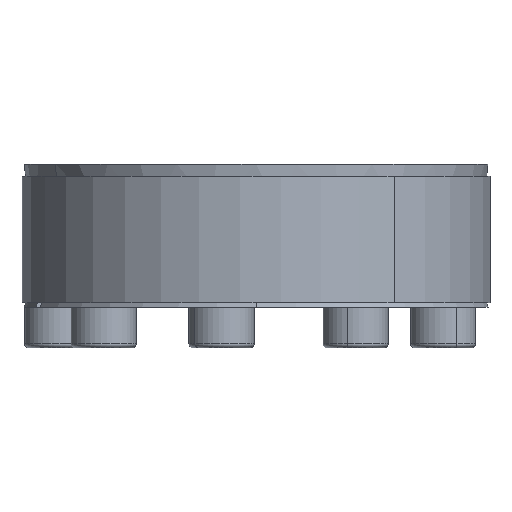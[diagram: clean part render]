
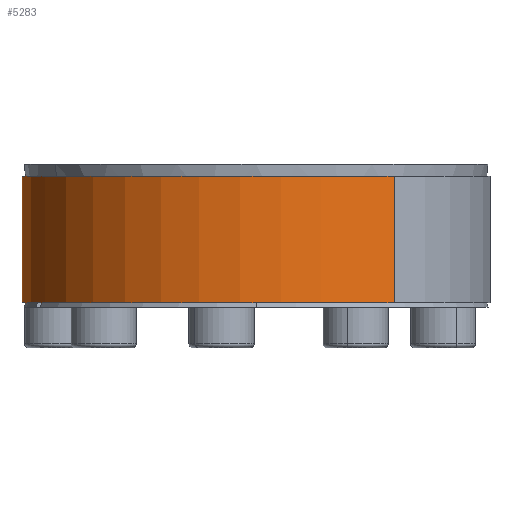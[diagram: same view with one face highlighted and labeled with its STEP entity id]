
A CAD part, left-side view. The second image highlights one B-rep face of the part: STEP entity #5283.
In plain terms, the highlighted cylindrical face has radius 57.48 mm (diameter 114.96 mm), a partial arc.
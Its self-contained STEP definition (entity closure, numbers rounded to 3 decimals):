
#276 = DIRECTION ( 'NONE',  ( 0., 0., -1. ) ) ;
#417 = VECTOR ( 'NONE', #10076, 1000. ) ;
#883 = EDGE_LOOP ( 'NONE', ( #9087, #13424, #11052, #8327 ) ) ;
#905 = AXIS2_PLACEMENT_3D ( 'NONE', #1407, #276, #6795 ) ;
#1407 = CARTESIAN_POINT ( 'NONE',  ( 0., 0., 32.054 ) ) ;
#2164 = EDGE_CURVE ( 'NONE', #7677, #12199, #3214, .T. ) ;
#2619 = CARTESIAN_POINT ( 'NONE',  ( 46.502, 33.786, 32.054 ) ) ;
#3214 = CIRCLE ( 'NONE', #10533, 57.48 ) ;
#3237 = EDGE_CURVE ( 'NONE', #9102, #10756, #13321, .T. ) ;
#3815 = CYLINDRICAL_SURFACE ( 'NONE', #905, 57.48 ) ;
#4219 = CARTESIAN_POINT ( 'NONE',  ( 0., 0., 1.054 ) ) ;
#4740 = CARTESIAN_POINT ( 'NONE',  ( 0., 0., 32.054 ) ) ;
#5147 = FACE_OUTER_BOUND ( 'NONE', #883, .T. ) ;
#5283 = ADVANCED_FACE ( 'NONE', ( #5147 ), #3815, .T. ) ;
#5285 = DIRECTION ( 'NONE',  ( -0.809, -0.588, 0. ) ) ;
#5793 = DIRECTION ( 'NONE',  ( -0.809, -0.588, 0. ) ) ;
#5855 = VECTOR ( 'NONE', #8747, 1000. ) ;
#6139 = CARTESIAN_POINT ( 'NONE',  ( 46.502, 33.786, 1.054 ) ) ;
#6218 = EDGE_CURVE ( 'NONE', #10756, #12199, #11570, .T. ) ;
#6585 = CARTESIAN_POINT ( 'NONE',  ( -46.502, -33.786, 32.054 ) ) ;
#6795 = DIRECTION ( 'NONE',  ( 0.809, 0.588, 0. ) ) ;
#7677 = VERTEX_POINT ( 'NONE', #6139 ) ;
#8327 = ORIENTED_EDGE ( 'NONE', *, *, #2164, .T. ) ;
#8747 = DIRECTION ( 'NONE',  ( 0., 0., -1. ) ) ;
#8841 = CARTESIAN_POINT ( 'NONE',  ( 46.502, 33.786, 32.054 ) ) ;
#9087 = ORIENTED_EDGE ( 'NONE', *, *, #6218, .F. ) ;
#9102 = VERTEX_POINT ( 'NONE', #8841 ) ;
#9274 = LINE ( 'NONE', #2619, #417 ) ;
#10076 = DIRECTION ( 'NONE',  ( 0., 0., -1. ) ) ;
#10533 = AXIS2_PLACEMENT_3D ( 'NONE', #4219, #11690, #5285 ) ;
#10756 = VERTEX_POINT ( 'NONE', #13328 ) ;
#10769 = CARTESIAN_POINT ( 'NONE',  ( -46.502, -33.786, 1.054 ) ) ;
#11052 = ORIENTED_EDGE ( 'NONE', *, *, #13684, .T. ) ;
#11570 = LINE ( 'NONE', #6585, #5855 ) ;
#11690 = DIRECTION ( 'NONE',  ( 0., 0., 1. ) ) ;
#12199 = VERTEX_POINT ( 'NONE', #10769 ) ;
#12227 = DIRECTION ( 'NONE',  ( 0., 0., 1. ) ) ;
#13321 = CIRCLE ( 'NONE', #13838, 57.48 ) ;
#13328 = CARTESIAN_POINT ( 'NONE',  ( -46.502, -33.786, 32.054 ) ) ;
#13424 = ORIENTED_EDGE ( 'NONE', *, *, #3237, .F. ) ;
#13684 = EDGE_CURVE ( 'NONE', #9102, #7677, #9274, .T. ) ;
#13838 = AXIS2_PLACEMENT_3D ( 'NONE', #4740, #12227, #5793 ) ;
